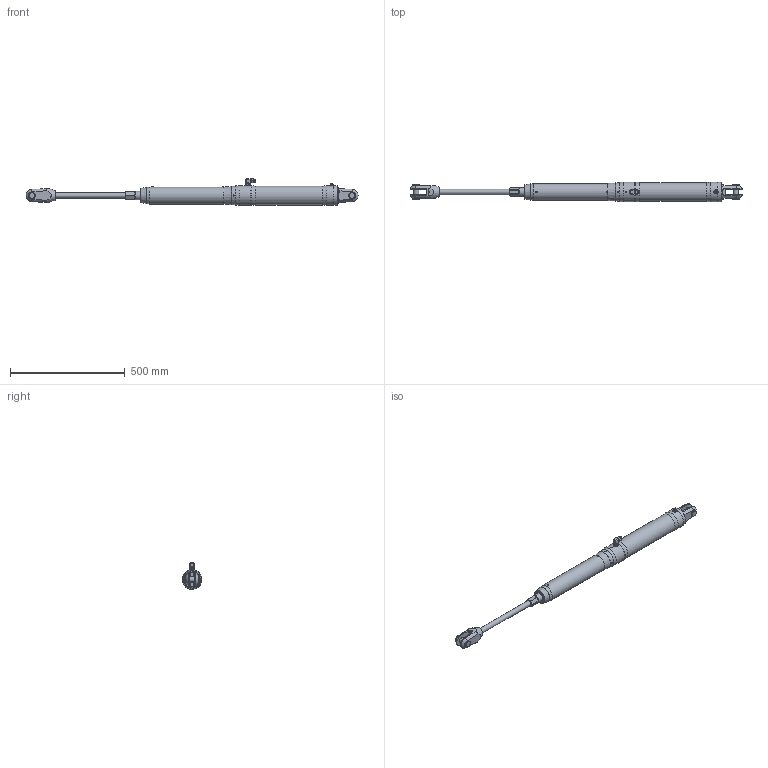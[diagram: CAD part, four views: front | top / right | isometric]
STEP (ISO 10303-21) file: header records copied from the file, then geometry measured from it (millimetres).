
FILE_DESCRIPTION(/* description */ (''),/* implementation_level */ '2;1');
FILE_NAME(/* name */ 'Q:\AA BRAND HYDRAULICS\HYDRAULICS FAMILY DIRECTORY\HYDRAULICS\CYLINDERS\MECHANICAL LOCK RAMS\ALUMINIUM - STAINLESS SINGLE ACTING (-0012 To -0150)\MSA-0030-S0300-NP-71\MSA-0030-S0300-NP-71 (Open).stp',/* time_stamp */ '2018-04-25T15:48:31+01:00',/* author */ ('Lorena'),/* organization */ (''),/* preprocessor_version */ 'ST-DEVELOPER v17',/* originating_system */ 'Autodesk Inventor 2018',/* authorisation */ '');
FILE_SCHEMA (('AUTOMOTIVE_DESIGN { 1 0 10303 214 3 1 1 }'));
Length unit declared in the file: millimetre
Products named in the file (1): MSA-0030-S0300-NP-71 (Open)
Bounding box: 1445.16 x 85.6 x 116.4 mm (x, y, z)
Volume: 4827036.7 mm3; surface area: 318031.9 mm2
Topology: 2 solids, 4 shells, 497 faces, 1299 edges, 845 vertices
Faces by surface type: plane 281, cone 125, cylinder 77, torus 6, sphere 4, bspline 4
Full cylindrical faces by diameter (mm): 4 x1, 4.134 x1, 4.2 x2, 4.4 x1, 5 x7, 5.1 x1, 7 x1, 9 x1, 10 x2, 11.11 x1, 11.157 x1, 11.5 x1, 11.8 x1, 12 x1, 12.157 x1, 13 x1, 13.157 x2, 14.5 x2, 16 x2, 18.3 x3, 22 x1, 22.23 x2, 23.5 x1, 27.788 x2, 36 x2, 37 x2, 40 x1, 74 x1, 82.6 x1, 85.6 x4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
Entity records: 16816 total; most frequent: CARTESIAN_POINT 4219, ORIENTED_EDGE 2580, DIRECTION 2515, EDGE_CURVE 1290, AXIS2_PLACEMENT_3D 968, VERTEX_POINT 846, LINE 579, VECTOR 579
